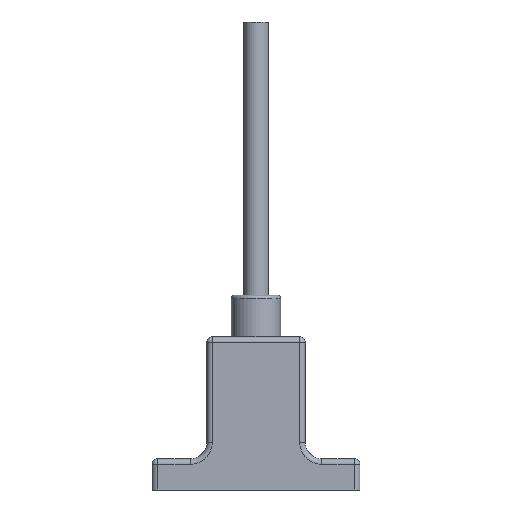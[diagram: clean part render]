
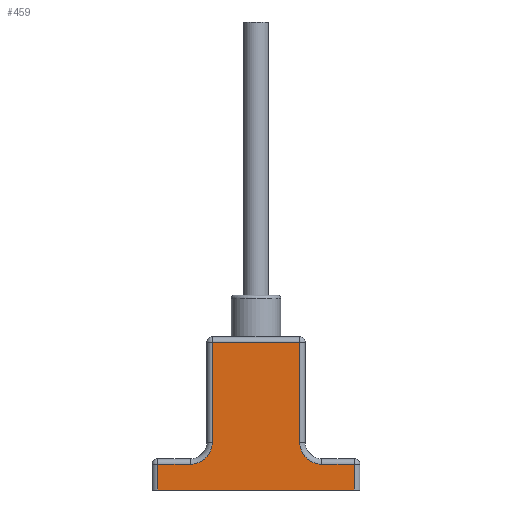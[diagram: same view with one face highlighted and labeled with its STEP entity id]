
A CAD part, front view. The second image highlights one B-rep face of the part: STEP entity #459.
In plain terms, the highlighted planar face has unit normal (0, -1, 0).
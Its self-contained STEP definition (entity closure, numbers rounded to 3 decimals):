
#210 = VERTEX_POINT('',#211);
#211 = CARTESIAN_POINT('',(-8.,-5.5,27.));
#220 = VERTEX_POINT('',#221);
#221 = CARTESIAN_POINT('',(8.,-5.5,27.));
#228 = EDGE_CURVE('',#210,#220,#229,.T.);
#229 = LINE('',#230,#231);
#230 = CARTESIAN_POINT('',(-9.,-5.5,27.));
#231 = VECTOR('',#232,1.);
#232 = DIRECTION('',(1.,0.,0.));
#459 = ADVANCED_FACE('',(#460),#535,.T.);
#460 = FACE_BOUND('',#461,.T.);
#461 = EDGE_LOOP('',(#462,#472,#480,#488,#497,#503,#504,#512,#521,#529)
  );
#462 = ORIENTED_EDGE('',*,*,#463,.T.);
#463 = EDGE_CURVE('',#464,#466,#468,.T.);
#464 = VERTEX_POINT('',#465);
#465 = CARTESIAN_POINT('',(-18.,-5.5,0.));
#466 = VERTEX_POINT('',#467);
#467 = CARTESIAN_POINT('',(18.,-5.5,0.));
#468 = LINE('',#469,#470);
#469 = CARTESIAN_POINT('',(-19.,-5.5,0.));
#470 = VECTOR('',#471,1.);
#471 = DIRECTION('',(1.,0.,0.));
#472 = ORIENTED_EDGE('',*,*,#473,.T.);
#473 = EDGE_CURVE('',#466,#474,#476,.T.);
#474 = VERTEX_POINT('',#475);
#475 = CARTESIAN_POINT('',(18.,-5.5,4.7));
#476 = LINE('',#477,#478);
#477 = CARTESIAN_POINT('',(18.,-5.5,0.));
#478 = VECTOR('',#479,1.);
#479 = DIRECTION('',(0.,0.,1.));
#480 = ORIENTED_EDGE('',*,*,#481,.T.);
#481 = EDGE_CURVE('',#474,#482,#484,.T.);
#482 = VERTEX_POINT('',#483);
#483 = CARTESIAN_POINT('',(12.,-5.5,4.7));
#484 = LINE('',#485,#486);
#485 = CARTESIAN_POINT('',(19.,-5.5,4.7));
#486 = VECTOR('',#487,1.);
#487 = DIRECTION('',(-1.,-0.,-0.));
#488 = ORIENTED_EDGE('',*,*,#489,.T.);
#489 = EDGE_CURVE('',#482,#490,#492,.T.);
#490 = VERTEX_POINT('',#491);
#491 = CARTESIAN_POINT('',(8.,-5.5,8.7));
#492 = CIRCLE('',#493,4.);
#493 = AXIS2_PLACEMENT_3D('',#494,#495,#496);
#494 = CARTESIAN_POINT('',(12.,-5.5,8.7));
#495 = DIRECTION('',(0.,1.,0.));
#496 = DIRECTION('',(0.,0.,-1.));
#497 = ORIENTED_EDGE('',*,*,#498,.T.);
#498 = EDGE_CURVE('',#490,#220,#499,.T.);
#499 = LINE('',#500,#501);
#500 = CARTESIAN_POINT('',(8.,-5.5,8.7));
#501 = VECTOR('',#502,1.);
#502 = DIRECTION('',(0.,0.,1.));
#503 = ORIENTED_EDGE('',*,*,#228,.F.);
#504 = ORIENTED_EDGE('',*,*,#505,.F.);
#505 = EDGE_CURVE('',#506,#210,#508,.T.);
#506 = VERTEX_POINT('',#507);
#507 = CARTESIAN_POINT('',(-8.,-5.5,8.7));
#508 = LINE('',#509,#510);
#509 = CARTESIAN_POINT('',(-8.,-5.5,8.7));
#510 = VECTOR('',#511,1.);
#511 = DIRECTION('',(0.,0.,1.));
#512 = ORIENTED_EDGE('',*,*,#513,.F.);
#513 = EDGE_CURVE('',#514,#506,#516,.T.);
#514 = VERTEX_POINT('',#515);
#515 = CARTESIAN_POINT('',(-12.,-5.5,4.7));
#516 = CIRCLE('',#517,4.);
#517 = AXIS2_PLACEMENT_3D('',#518,#519,#520);
#518 = CARTESIAN_POINT('',(-12.,-5.5,8.7));
#519 = DIRECTION('',(0.,-1.,0.));
#520 = DIRECTION('',(0.,0.,-1.));
#521 = ORIENTED_EDGE('',*,*,#522,.F.);
#522 = EDGE_CURVE('',#523,#514,#525,.T.);
#523 = VERTEX_POINT('',#524);
#524 = CARTESIAN_POINT('',(-18.,-5.5,4.7));
#525 = LINE('',#526,#527);
#526 = CARTESIAN_POINT('',(-19.,-5.5,4.7));
#527 = VECTOR('',#528,1.);
#528 = DIRECTION('',(1.,0.,0.));
#529 = ORIENTED_EDGE('',*,*,#530,.F.);
#530 = EDGE_CURVE('',#464,#523,#531,.T.);
#531 = LINE('',#532,#533);
#532 = CARTESIAN_POINT('',(-18.,-5.5,0.));
#533 = VECTOR('',#534,1.);
#534 = DIRECTION('',(0.,0.,1.));
#535 = PLANE('',#536);
#536 = AXIS2_PLACEMENT_3D('',#537,#538,#539);
#537 = CARTESIAN_POINT('',(0.,-5.5,10.621));
#538 = DIRECTION('',(-0.,-1.,-0.));
#539 = DIRECTION('',(0.,0.,-1.));
